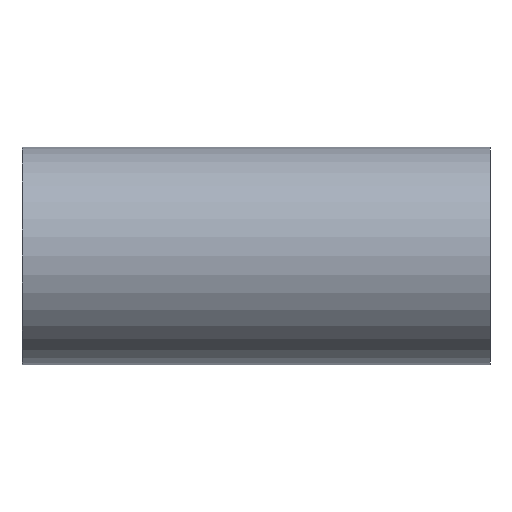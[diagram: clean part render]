
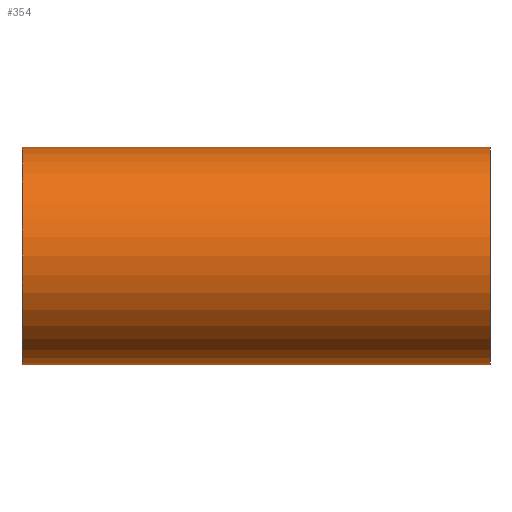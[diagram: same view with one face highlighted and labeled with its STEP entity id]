
A CAD part, front view. The second image highlights one B-rep face of the part: STEP entity #354.
In plain terms, the highlighted cylindrical face has radius 12.075 mm (diameter 24.15 mm), a full revolution.
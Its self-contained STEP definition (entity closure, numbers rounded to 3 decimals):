
#18=FACE_BOUND('',#71,.T.);
#33=CYLINDRICAL_SURFACE('',#414,12.075);
#50=FACE_OUTER_BOUND('',#70,.T.);
#70=EDGE_LOOP('',(#320,#321,#322,#323));
#71=EDGE_LOOP('',(#324,#325,#326));
#85=LINE('',#1075,#93);
#93=VECTOR('',#499,12.075);
#113=CIRCLE('',#415,12.075);
#114=CIRCLE('',#416,12.075);
#136=B_SPLINE_CURVE_WITH_KNOTS('',3,(#1037,#1038,#1039,#1040,#1041,#1042,
#1043,#1044,#1045,#1046,#1047,#1048,#1049,#1050,#1051,#1052,#1053,#1054),
 .UNSPECIFIED.,.F.,.F.,(4,1,1,1,1,1,1,1,1,1,1,1,1,1,1,4),(-4.95,
-4.773,-4.596,-4.243,-4.007,
-3.771,-3.653,-3.594,-3.535,
-3.064,-2.828,-2.593,-2.357,
-2.121,-1.886,-1.788),.UNSPECIFIED.);
#137=B_SPLINE_CURVE_WITH_KNOTS('',3,(#1056,#1057,#1058,#1059,#1060,#1061,
#1062,#1063,#1064),.UNSPECIFIED.,.F.,.F.,(4,1,1,1,1,1,4),(-1.788,
-1.65,-1.414,-1.061,-0.884,
-0.707,-0.686),.UNSPECIFIED.);
#138=B_SPLINE_CURVE_WITH_KNOTS('',3,(#1065,#1066,#1067,#1068,#1069,#1070),
 .UNSPECIFIED.,.F.,.F.,(4,1,1,4),(-0.686,-0.354,
-0.177,0.),.UNSPECIFIED.);
#169=VERTEX_POINT('',#1034);
#170=VERTEX_POINT('',#1036);
#171=VERTEX_POINT('',#1055);
#172=VERTEX_POINT('',#1072);
#173=VERTEX_POINT('',#1074);
#221=EDGE_CURVE('',#169,#170,#136,.T.);
#222=EDGE_CURVE('',#170,#171,#137,.T.);
#223=EDGE_CURVE('',#171,#169,#138,.T.);
#224=EDGE_CURVE('',#172,#172,#113,.T.);
#225=EDGE_CURVE('',#172,#173,#85,.T.);
#226=EDGE_CURVE('',#173,#173,#114,.T.);
#320=ORIENTED_EDGE('',*,*,#224,.F.);
#321=ORIENTED_EDGE('',*,*,#225,.T.);
#322=ORIENTED_EDGE('',*,*,#226,.T.);
#323=ORIENTED_EDGE('',*,*,#225,.F.);
#324=ORIENTED_EDGE('',*,*,#221,.F.);
#325=ORIENTED_EDGE('',*,*,#223,.F.);
#326=ORIENTED_EDGE('',*,*,#222,.F.);
#354=ADVANCED_FACE('',(#50,#18),#33,.T.);
#414=AXIS2_PLACEMENT_3D('',#1071,#495,#496);
#415=AXIS2_PLACEMENT_3D('',#1073,#497,#498);
#416=AXIS2_PLACEMENT_3D('',#1076,#500,#501);
#495=DIRECTION('center_axis',(1.,0.,0.));
#496=DIRECTION('ref_axis',(0.,1.,0.));
#497=DIRECTION('center_axis',(1.,0.,0.));
#498=DIRECTION('ref_axis',(0.,1.,0.));
#499=DIRECTION('',(-1.,0.,0.));
#500=DIRECTION('center_axis',(1.,0.,0.));
#501=DIRECTION('ref_axis',(0.,1.,0.));
#1034=CARTESIAN_POINT('',(0.,8.228,8.838));
#1036=CARTESIAN_POINT('',(-8.661,10.619,-5.747));
#1037=CARTESIAN_POINT('Ctrl Pts',(0.,8.228,
8.838));
#1038=CARTESIAN_POINT('Ctrl Pts',(0.887,8.228,8.838));
#1039=CARTESIAN_POINT('Ctrl Pts',(2.666,8.408,8.674));
#1040=CARTESIAN_POINT('Ctrl Pts',(5.865,9.299,7.766));
#1041=CARTESIAN_POINT('Ctrl Pts',(8.661,10.588,6.041));
#1042=CARTESIAN_POINT('Ctrl Pts',(10.707,11.68,3.411));
#1043=CARTESIAN_POINT('Ctrl Pts',(11.412,12.082,1.169));
#1044=CARTESIAN_POINT('Ctrl Pts',(11.411,12.082,-0.457));
#1045=CARTESIAN_POINT('Ctrl Pts',(11.275,12.004,-1.365));
#1046=CARTESIAN_POINT('Ctrl Pts',(10.701,11.687,-3.628));
#1047=CARTESIAN_POINT('Ctrl Pts',(8.721,10.563,-6.116));
#1048=CARTESIAN_POINT('Ctrl Pts',(5.129,9.062,-8.03));
#1049=CARTESIAN_POINT('Ctrl Pts',(1.834,8.196,-8.872));
#1050=CARTESIAN_POINT('Ctrl Pts',(-1.82,8.194,-8.871));
#1051=CARTESIAN_POINT('Ctrl Pts',(-5.107,9.055,-8.041));
#1052=CARTESIAN_POINT('Ctrl Pts',(-7.291,9.964,-6.877));
#1053=CARTESIAN_POINT('Ctrl Pts',(-8.366,10.475,-6.014));
#1054=CARTESIAN_POINT('Ctrl Pts',(-8.661,10.619,-5.747));
#1055=CARTESIAN_POINT('',(-8.659,10.62,5.749));
#1056=CARTESIAN_POINT('Ctrl Pts',(-8.661,10.619,-5.747));
#1057=CARTESIAN_POINT('Ctrl Pts',(-9.08,10.824,-5.367));
#1058=CARTESIAN_POINT('Ctrl Pts',(-10.109,11.353,-4.259));
#1059=CARTESIAN_POINT('Ctrl Pts',(-11.493,12.125,-1.686));
#1060=CARTESIAN_POINT('Ctrl Pts',(-11.501,12.132,1.434));
#1061=CARTESIAN_POINT('Ctrl Pts',(-10.284,11.449,3.978));
#1062=CARTESIAN_POINT('Ctrl Pts',(-9.315,10.944,5.138));
#1063=CARTESIAN_POINT('Ctrl Pts',(-8.724,10.651,5.69));
#1064=CARTESIAN_POINT('Ctrl Pts',(-8.659,10.62,5.749));
#1065=CARTESIAN_POINT('Ctrl Pts',(-8.659,10.62,5.749));
#1066=CARTESIAN_POINT('Ctrl Pts',(-7.652,10.125,6.663));
#1067=CARTESIAN_POINT('Ctrl Pts',(-5.77,9.271,7.794));
#1068=CARTESIAN_POINT('Ctrl Pts',(-2.668,8.409,8.674));
#1069=CARTESIAN_POINT('Ctrl Pts',(-0.887,8.228,8.838));
#1070=CARTESIAN_POINT('Ctrl Pts',(0.,8.228,
8.838));
#1071=CARTESIAN_POINT('Origin',(0.,0.,0.));
#1072=CARTESIAN_POINT('',(26.,-12.075,0.));
#1073=CARTESIAN_POINT('Origin',(26.,0.,0.));
#1074=CARTESIAN_POINT('',(-26.,-12.075,0.));
#1075=CARTESIAN_POINT('',(0.,-12.075,0.));
#1076=CARTESIAN_POINT('Origin',(-26.,0.,0.));
